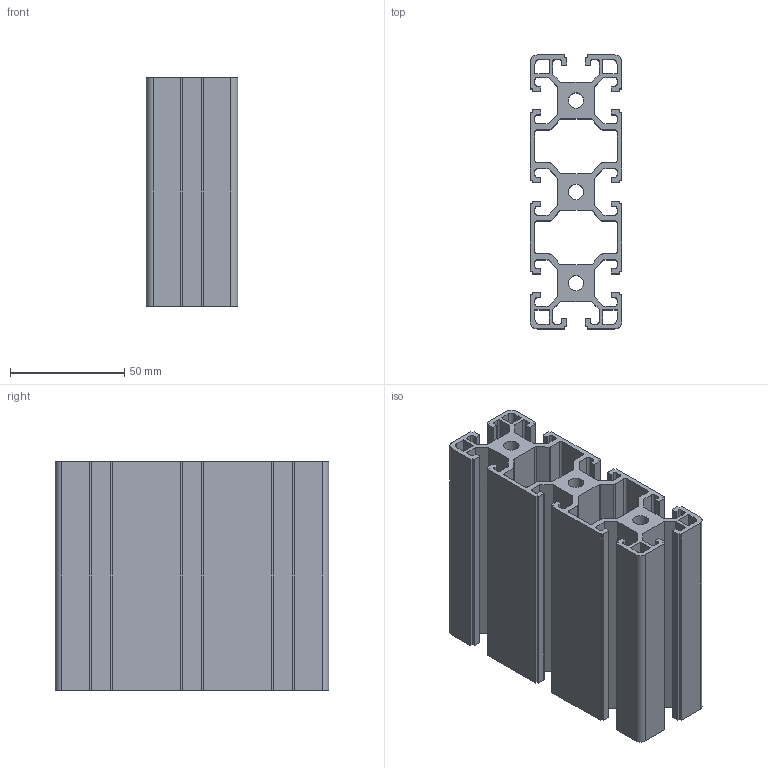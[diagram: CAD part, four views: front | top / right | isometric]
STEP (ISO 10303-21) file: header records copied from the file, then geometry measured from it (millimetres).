
FILE_DESCRIPTION (( 'STEP AP203' ), '1' );
FILE_NAME ('LIMA-40120.STEP', '2018-08-06T07:58:09', ( '' ), ( '' ), 'SwSTEP 2.0', 'SolidWorks 2013', '' );
FILE_SCHEMA (( 'CONFIG_CONTROL_DESIGN' ));
Length unit declared in the file: millimetre
Products named in the file (1): LIMA-40120
Bounding box: 40 x 120 x 100 mm (x, y, z)
Volume: 159307.5 mm3; surface area: 113448.8 mm2
Topology: 1 solids, 1 shells, 284 faces, 846 edges, 564 vertices
Faces by surface type: plane 190, cylinder 94
Entity records: 9633 total; most frequent: CARTESIAN_POINT 1695, ORIENTED_EDGE 1692, DIRECTION 1604, EDGE_CURVE 846, LINE 658, VECTOR 658, VERTEX_POINT 564, AXIS2_PLACEMENT_3D 473
